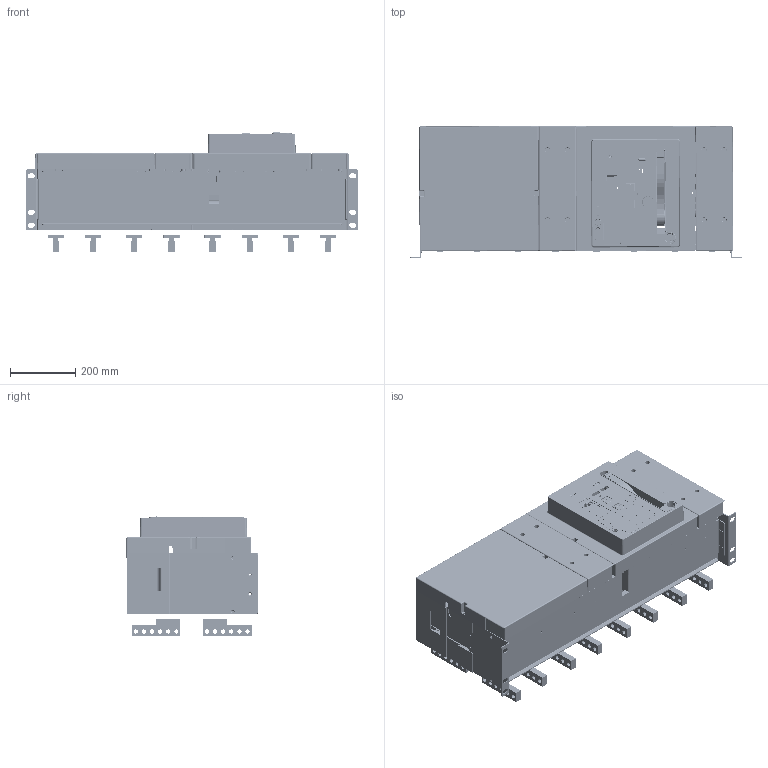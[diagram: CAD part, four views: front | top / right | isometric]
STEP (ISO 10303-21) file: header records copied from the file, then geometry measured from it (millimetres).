
FILE_DESCRIPTION((''),'2;1');
FILE_NAME('HG_26_D404_634_V_FIX_ASM_ASM','2019-03-29T',('HHI'),(''),'PRO/ENGINEER BY PARAMETRIC TECHNOLOGY CORPORATION, 2012453','PRO/ENGINEER BY PARAMETRIC TECHNOLOGY CORPORATION, 2012453','');
FILE_SCHEMA(('CONFIG_CONTROL_DESIGN'));
Products named in the file (29): PRT0223; PRT0224; PRT0226; PRT0227; PRT0228; PRT0229; ASM0065_ASM; PRT0230; PRT0231; PRT0232; ASM0066_ASM; PRT0235; PRT0236; ASM0064_ASM; PRT0237; ASM0063_ASM; PRT0238; SC_MAIN_FRONT_COVER_40N_6; PRT0239; PRT0240; PRT0241; PRT0242; ASM0062_ASM; PRT0243; D634_V_FIX_ASM_1_ASM; HG_FRONT_COVER_40; 4AT-06477S03; 4AT-06477S04; HG_26_D404_634_V_FIX_ASM_ASM
Assembly tree (52 placements, depth 7):
  HG_26_D404_634_V_FIX_ASM_ASM
    D634_V_FIX_ASM_1_ASM
      ASM0062_ASM
        PRT0223  x2
        PRT0224  x2
        ASM0063_ASM
          ASM0064_ASM
            ASM0065_ASM
              PRT0226
              PRT0227
              PRT0228
              PRT0229
            ASM0066_ASM
              PRT0230
              PRT0231
              PRT0232
            PRT0235
            PRT0236
          PRT0237
        PRT0238
        SC_MAIN_FRONT_COVER_40N_6
        PRT0239  x8
        PRT0240
        PRT0241
        PRT0242
      PRT0243  x16
    HG_FRONT_COVER_40
    4AT-06477S03
    4AT-06477S04
Bounding box: 1021.4 x 405.88 x 371.63 mm (x, y, z)
Volume: 19667681.6 mm3; surface area: 7055263.8 mm2
Topology: 46 solids, 62 shells, 12737 faces, 35516 edges, 23221 vertices
Faces by surface type: plane 8091, cylinder 3769, torus 313, cone 166, sphere 150, extrusion 141, bspline 107
Entity records: 278245 total; most frequent: CARTESIAN_POINT 56466, ORIENTED_EDGE 46964, DIRECTION 45097, EDGE_CURVE 23506, VECTOR 17143, LINE 17002, VERTEX_POINT 15298, AXIS2_PLACEMENT_3D 13977
